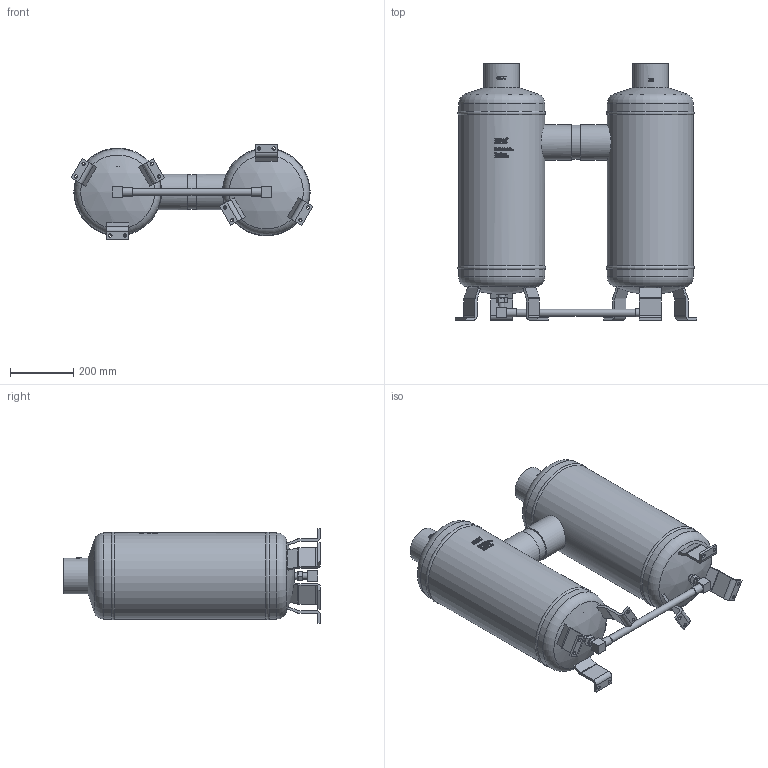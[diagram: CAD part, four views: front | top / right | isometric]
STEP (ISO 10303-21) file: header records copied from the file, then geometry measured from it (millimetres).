
FILE_DESCRIPTION(/* description */ (''),/* implementation_level */ '2;1');
FILE_NAME(/* name */ 'P:\FA\FA-104-64T\FA-104-64T.stp',/* time_stamp */ '2017-12-14T10:09:42+01:00',/* author */ ('neufeld'),/* organization */ (''),/* preprocessor_version */ 'ST-DEVELOPER v16.1',/* originating_system */ 'Autodesk Inventor 2016',/* authorisation */ '');
FILE_SCHEMA (('AUTOMOTIVE_DESIGN { 1 0 10303 214 3 1 1 }'));
Length unit declared in the file: millimetre
Products named in the file (1): FA-104-64T_AG-Kunde
Bounding box: 765.81 x 813.39 x 300 mm (x, y, z)
Volume: 76620700.1 mm3; surface area: 1580895.3 mm2
Topology: 1 solids, 2 shells, 1513 faces, 4076 edges, 2708 vertices
Faces by surface type: bspline 674, plane 617, cylinder 180, cone 29, torus 8, sphere 5
Full cylindrical faces by diameter (mm): 10.5 x12, 20.1 x2, 20.2 x2, 22.4 x1, 22.5 x2, 25.2 x2, 26 x2, 104.8 x2, 108 x1, 112.7 x4, 273.2 x6
Entity records: 60853 total; most frequent: CARTESIAN_POINT 27106, ORIENTED_EDGE 8026, DIRECTION 4901, EDGE_CURVE 4013, VERTEX_POINT 2695, LINE 1941, VECTOR 1941, EDGE_LOOP 1732
